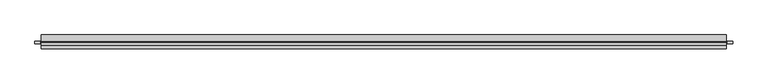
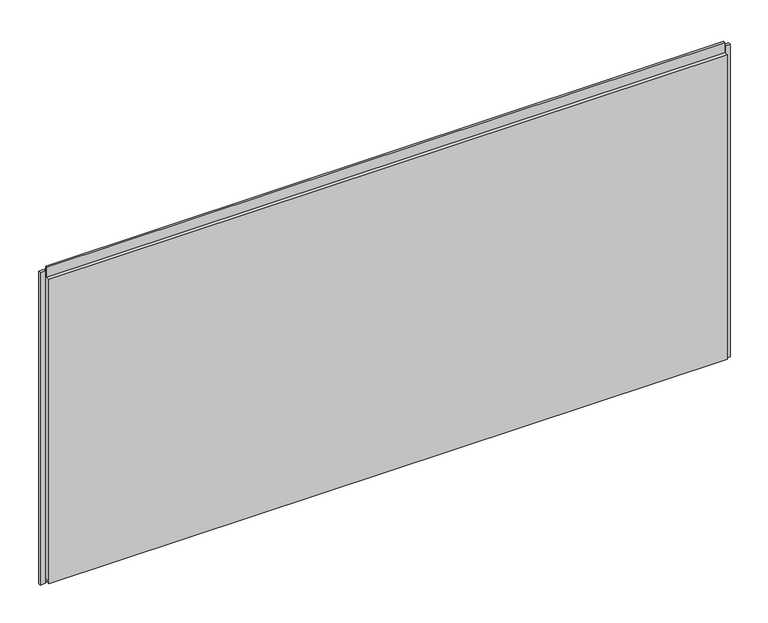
"""IFC4 building model written with IfcOpenShell, lengths in millimetres: plate geometry, Trimo_Qbiss Screen_Normal Panel-HORIZONTAL : HR - B."""

import ifcopenshell
import ifcopenshell.guid

model = None  # the IFC model being written
_history = None  # IfcOwnerHistory: only IFC2X3 demands one
_inside = {}  # id of a spatial element -> (the spatial element, [elements in it])
_under = {}  # id of a project, library or spatial element -> (it, [spatial elements below it])
_declared = {}  # id of a project -> (the project, [libraries it declares])
_typed = {}  # id of a type object -> (the type object, [elements of that type])
_made_of = {}  # id of a material, layer set ... -> (it, [elements and type objects made of it])


def new_model(schema):
    """Start an empty IFC model of exactly this schema.

    Asked for "IFC4X3", IfcOpenShell would pick the latest addendum, in which some entities
    have other attributes; the version numbers below select the first issue.
    IFC2X3 requires an IfcOwnerHistory on every rooted entity: one is made here for all.
    """
    global model, _history
    if schema == "IFC4X3":
        model = ifcopenshell.file(schema_version=(4, 3, 0, 0))
    else:
        model = ifcopenshell.file(schema=schema)
    _inside.clear()
    _under.clear()
    _declared.clear()
    _typed.clear()
    _made_of.clear()
    _history = None
    if model.schema == "IFC2X3":
        org = make("IfcOrganization", Name="unknown")
        user = make(
            "IfcPersonAndOrganization",
            ThePerson=make("IfcPerson", FamilyName="unknown"),
            TheOrganization=org,
        )
        app = make(
            "IfcApplication",
            ApplicationDeveloper=org,
            Version="unknown",
            ApplicationFullName="unknown",
            ApplicationIdentifier="unknown",
        )
        _history = make(
            "IfcOwnerHistory",
            OwningUser=user,
            OwningApplication=app,
            ChangeAction="ADDED",
            CreationDate=0,
        )
    return model


def make(cls, **values):
    """One entity of the class cls with the attributes given. An attribute that is None is left unset."""
    return model.create_entity(
        cls, **{name: value for name, value in values.items() if value is not None}
    )


def rooted(cls, **values):
    """An entity with a GlobalId (a new one), such as an element, a storey or a relation."""
    return make(cls, GlobalId=ifcopenshell.guid.new(), OwnerHistory=_history, **values)


def si_unit(unit_type, name, prefix=None):
    """IfcSIUnit, for example si_unit("LENGTHUNIT", "METRE", prefix="MILLI")."""
    return make("IfcSIUnit", UnitType=unit_type, Prefix=prefix, Name=name)


def assignment(units):
    """IfcUnitAssignment: the units of a project."""
    return None if units is None else make("IfcUnitAssignment", Units=units)


def point(xyz):
    """IfcCartesianPoint."""
    return None if xyz is None else make("IfcCartesianPoint", Coordinates=xyz)


def direction(xyz):
    """IfcDirection."""
    return None if xyz is None else make("IfcDirection", DirectionRatios=xyz)


def frame(location, z_axis=None, x_axis=None):
    """IfcAxis2Placement3D, a coordinate frame: its origin and axes. An axis left out is left unset."""
    return make(
        "IfcAxis2Placement3D",
        Location=point(location),
        Axis=direction(z_axis),
        RefDirection=direction(x_axis),
    )


def origin():
    """The frame at (0, 0, 0) with its axes left unset."""
    return frame((0.0, 0.0, 0.0))


def place(relative_to, where):
    """IfcLocalPlacement: puts the frame where relative to a parent placement (None: the world)."""
    return make(
        "IfcLocalPlacement", PlacementRelTo=relative_to, RelativePlacement=where
    )


def context(
    kind, dimensions, precision=None, world=None, true_north=None, identifier=None
):
    """IfcGeometricRepresentationContext, for example the 3D "Model" context."""
    return make(
        "IfcGeometricRepresentationContext",
        ContextIdentifier=identifier,
        ContextType=kind,
        CoordinateSpaceDimension=dimensions,
        Precision=precision,
        WorldCoordinateSystem=world,
        TrueNorth=true_north,
    )


def project(units=None, contexts=None):
    """IfcProject with its units and contexts."""
    return rooted(
        "IfcProject",
        Name="project",
        RepresentationContexts=contexts,
        UnitsInContext=assignment(units),
    )


def spatial(cls, under=None, at=None, **own):
    """A site, building, storey or space (cls), placed at a placement, below another one or the project."""
    s = rooted(cls, ObjectPlacement=at, **own)
    if under is not None:
        _under.setdefault(under.id(), (under, []))[1].append(s)
    return s


def polyline(points):
    """IfcPolyline through the points."""
    return make("IfcPolyline", Points=[point(p) for p in points])


def outline(outer, holes=None, kind="AREA"):
    """IfcArbitraryClosedProfileDef: a profile drawn as a closed curve; with holes, ...WithVoids."""
    if holes is None:
        return make("IfcArbitraryClosedProfileDef", ProfileType=kind, OuterCurve=outer)
    return make(
        "IfcArbitraryProfileDefWithVoids",
        ProfileType=kind,
        OuterCurve=outer,
        InnerCurves=holes,
    )


def extrude(swept, where, along, depth):
    """IfcExtrudedAreaSolid: the profile swept, set in the frame where, extruded along a direction by depth."""
    return make(
        "IfcExtrudedAreaSolid",
        SweptArea=swept,
        Position=where,
        ExtrudedDirection=direction(along),
        Depth=depth,
    )


def shape(context_of_items, identifier, shape_type, items):
    """IfcShapeRepresentation: the items that make up one representation, for example the "Body"."""
    return make(
        "IfcShapeRepresentation",
        ContextOfItems=context_of_items,
        RepresentationIdentifier=identifier,
        RepresentationType=shape_type,
        Items=items,
    )


def source(mapping_origin, context_of_items, identifier, shape_type, items):
    """IfcRepresentationMap: a shape defined once, which mapped items show again and again."""
    return make(
        "IfcRepresentationMap",
        MappingOrigin=mapping_origin,
        MappedRepresentation=shape(context_of_items, identifier, shape_type, items),
    )


def transform(
    local_origin,
    x_axis=None,
    y_axis=None,
    z_axis=None,
    scale=None,
    scale2=None,
    scale3=None,
    uniform=True,
):
    """IfcCartesianTransformationOperator3D, or its non-uniform kind. x_axis, y_axis, z_axis: its Axis1, 2, 3."""
    if uniform:
        return make(
            "IfcCartesianTransformationOperator3D",
            Axis1=direction(x_axis),
            Axis2=direction(y_axis),
            LocalOrigin=point(local_origin),
            Scale=scale,
            Axis3=direction(z_axis),
        )
    return make(
        "IfcCartesianTransformationOperator3DnonUniform",
        Axis1=direction(x_axis),
        Axis2=direction(y_axis),
        LocalOrigin=point(local_origin),
        Scale=scale,
        Axis3=direction(z_axis),
        Scale2=scale2,
        Scale3=scale3,
    )


def mapped(mapping_source, mapping_target):
    """IfcMappedItem: shows the shape of a source again, moved by a transform."""
    return make(
        "IfcMappedItem", MappingSource=mapping_source, MappingTarget=mapping_target
    )


def made_of(thing, what):
    """Note that an element or type object is made of a material, layer set ...; save() writes the relation."""
    if what is not None:
        _made_of.setdefault(what.id(), (what, []))[1].append(thing)
    return thing


def element(
    cls,
    number,
    at=None,
    inside=None,
    cuts=None,
    type_object=None,
    material=None,
    context=None,
    identifier="Body",
    shape_type=None,
    held_by="IfcProductDefinitionShape",
    body=None,
    shapes=None,
    **own,
):
    """One element of the class cls, such as IfcWall. Its Tag is "e" and its number.

    at: its placement. inside: the storey or other place that contains it. cuts: it is an
    opening in that element (IfcRelVoidsElement). A single representation is given by context,
    identifier, shape_type and body (its items); several are given by shapes. held_by: the class
    of the entity that holds the representations. save() writes the other relations.
    """
    e = rooted(cls, Tag="e%d" % number, ObjectPlacement=at, **own)
    if body is not None:
        shapes = [shape(context, identifier, shape_type, body)]
    if shapes is not None:
        e.Representation = make(held_by, Representations=shapes)
    if inside is not None:
        _inside.setdefault(inside.id(), (inside, []))[1].append(e)
    if cuts is not None:
        rooted(
            "IfcRelVoidsElement", RelatingBuildingElement=cuts, RelatedOpeningElement=e
        )
    if type_object is not None:
        _typed.setdefault(type_object.id(), (type_object, []))[1].append(e)
    return made_of(e, material)


def aggregate(whole, parts):
    """IfcRelAggregates: a whole, such as a stair, and the parts it consists of."""
    return rooted("IfcRelAggregates", RelatingObject=whole, RelatedObjects=parts)


def save(model, path):
    """Write the relations noted so far, then the file.

    IfcRelAggregates (storeys below a building ...), IfcRelContainedInSpatialStructure (elements
    in a storey), IfcRelDefinesByType, IfcRelAssociatesMaterial and IfcRelDeclares: one each for
    every whole, place, type object, material and project.
    """
    for whole, parts in _under.values():
        aggregate(whole, parts)
    for where, things in _inside.values():
        rooted(
            "IfcRelContainedInSpatialStructure",
            RelatedElements=things,
            RelatingStructure=where,
        )
    for kind, things in _typed.values():
        rooted("IfcRelDefinesByType", RelatedObjects=things, RelatingType=kind)
    for what, things in _made_of.values():
        rooted("IfcRelAssociatesMaterial", RelatedObjects=things, RelatingMaterial=what)
    for by, libraries in _declared.values():
        rooted("IfcRelDeclares", RelatingContext=by, RelatedDefinitions=libraries)
    model.write(path)


def plate_a0032974(model_context):
    return source(origin(), model_context, "Body", "SweptSolid", [
        extrude(outline(polyline([(-1228.0, 76.5978162), (-1228.0, 67.8978162), (-1247.0, 67.8978162), (-1247.0, 76.5978162), (-1228.0, 76.5978162)])), frame((0.0, 0.0, -1.0), z_axis=(0.0, 0.0, 1.0), x_axis=(1.0, 0.0, 0.0)), (0.0, 0.0, 1.0), 1200.0),
        extrude(outline(polyline([(1240.5, 67.8978162), (1240.5, 76.5978162), (1259.5, 76.5978162), (1259.5, 67.8978162), (1240.5, 67.8978162)])), frame((0.0, 0.0, -1.0), z_axis=(0.0, 0.0, 1.0), x_axis=(1.0, 0.0, 0.0)), (0.0, 0.0, 1.0), 1200.0),
        extrude(outline(polyline([(1237.5, 76.0), (1237.5, 71.0), (-1225.0, 71.0), (-1225.0, 76.0), (1237.5, 76.0)])), frame((0.0, 0.0, 1178.0), z_axis=(0.0, 0.0, 1.0), x_axis=(1.0, 0.0, 0.0)), (0.0, 0.0, 1.0), 21.0),
        extrude(outline(polyline([(71.0, 1177.0), (100.0, 1177.0), (100.0, 0.0), (72.0, 0.0), (72.0, 15.5), (62.0, 15.5), (62.0, 7.0), (50.0, 7.0), (50.0, 1177.0), (63.0, 1177.0), (63.0, 1214.5), (71.0, 1214.5), (71.0, 1177.0)])), frame((-1225.0, 0.0, 0.0), z_axis=(1.0, 0.0, 0.0), x_axis=(0.0, 1.0, 0.0)), (0.0, 0.0, 1.0), 2462.5),
    ])


if __name__ == "__main__":
    model = new_model("IFC4")
    model_context = context("Model", 3, world=origin())
    ifc_project = project(units=[si_unit("LENGTHUNIT", "METRE", prefix="MILLI")], contexts=[model_context])
    site = spatial("IfcSite", under=ifc_project)
    building = spatial("IfcBuilding", under=site)
    placement = place(None, origin())
    plate_shape = plate_a0032974(model_context)
    element("IfcPlate", 1, ObjectType="Trimo_Qbiss Screen_Normal Panel-HORIZONTAL : HR - B", at=placement, inside=building, context=model_context, shape_type="MappedRepresentation", body=[
        mapped(plate_shape, transform((0.0, 0.0, 0.0), x_axis=(1.0, 0.0, 0.0), y_axis=(0.0, 1.0, 0.0), z_axis=(0.0, 0.0, 1.0))),
    ])
    save(model, "model.ifc")
